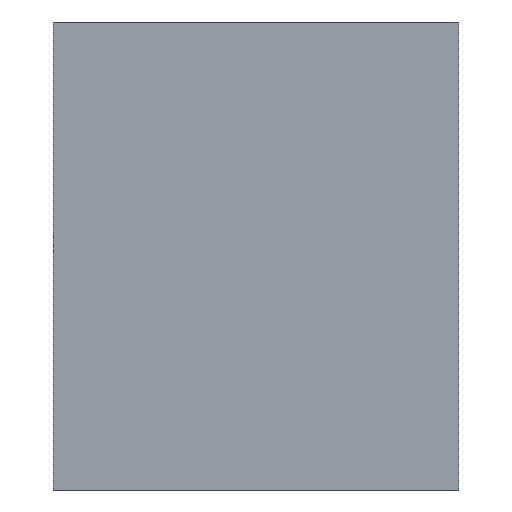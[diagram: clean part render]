
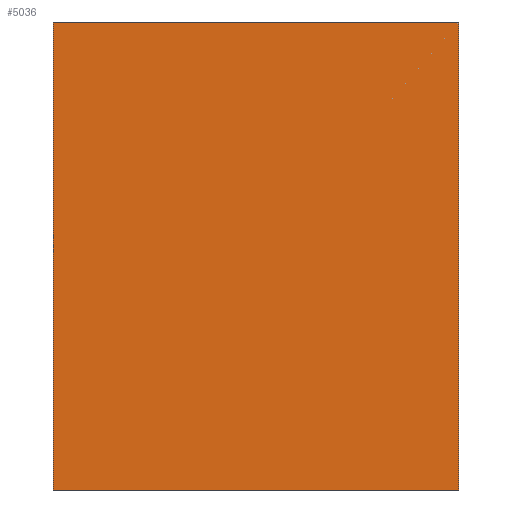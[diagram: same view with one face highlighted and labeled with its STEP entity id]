
A CAD part, front view. The second image highlights one B-rep face of the part: STEP entity #5036.
In plain terms, the highlighted planar face has unit normal (0, -1, 0).
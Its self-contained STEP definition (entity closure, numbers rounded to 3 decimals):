
#950=DIRECTION('',(-1.,0.,0.));
#951=VECTOR('',#950,65.);
#952=CARTESIAN_POINT('',(32.5,-12.,-37.5));
#953=LINE('',#952,#951);
#954=DIRECTION('',(0.,0.,1.));
#955=VECTOR('',#954,75.);
#956=CARTESIAN_POINT('',(-32.5,-12.,-37.5));
#957=LINE('',#956,#955);
#958=DIRECTION('',(1.,0.,0.));
#959=VECTOR('',#958,65.);
#960=CARTESIAN_POINT('',(-32.5,-12.,37.5));
#961=LINE('',#960,#959);
#962=DIRECTION('',(0.,0.,-1.));
#963=VECTOR('',#962,75.);
#964=CARTESIAN_POINT('',(32.5,-12.,37.5));
#965=LINE('',#964,#963);
#3860=CARTESIAN_POINT('',(32.5,-12.,-37.5));
#3861=CARTESIAN_POINT('',(-32.5,-12.,-37.5));
#3862=VERTEX_POINT('',#3860);
#3863=VERTEX_POINT('',#3861);
#3864=CARTESIAN_POINT('',(-32.5,-12.,37.5));
#3865=VERTEX_POINT('',#3864);
#3866=CARTESIAN_POINT('',(32.5,-12.,37.5));
#3867=VERTEX_POINT('',#3866);
#5022=CARTESIAN_POINT('',(0.,-12.,0.));
#5023=DIRECTION('',(0.,1.,0.));
#5024=DIRECTION('',(0.,0.,1.));
#5025=AXIS2_PLACEMENT_3D('',#5022,#5023,#5024);
#5026=PLANE('',#5025);
#5027=ORIENTED_EDGE('',*,*,#5012,.T.);
#5029=ORIENTED_EDGE('',*,*,#5028,.T.);
#5031=ORIENTED_EDGE('',*,*,#5030,.T.);
#5033=ORIENTED_EDGE('',*,*,#5032,.T.);
#5034=EDGE_LOOP('',(#5027,#5029,#5031,#5033));
#5035=FACE_OUTER_BOUND('',#5034,.F.);
#5036=ADVANCED_FACE('',(#5035),#5026,.F.);
#5012=EDGE_CURVE('',#3862,#3863,#953,.T.);
#5028=EDGE_CURVE('',#3863,#3865,#957,.T.);
#5030=EDGE_CURVE('',#3865,#3867,#961,.T.);
#5032=EDGE_CURVE('',#3867,#3862,#965,.T.);
